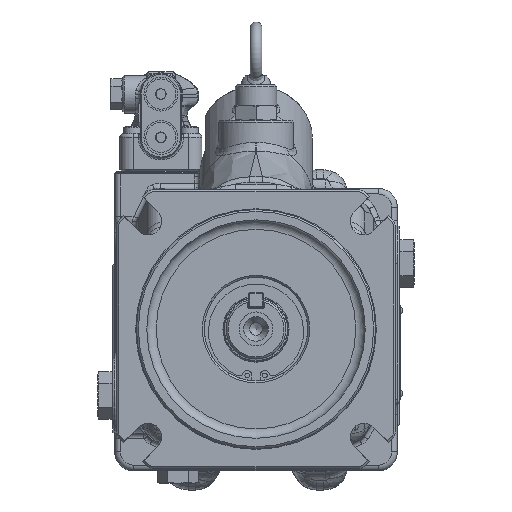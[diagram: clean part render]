
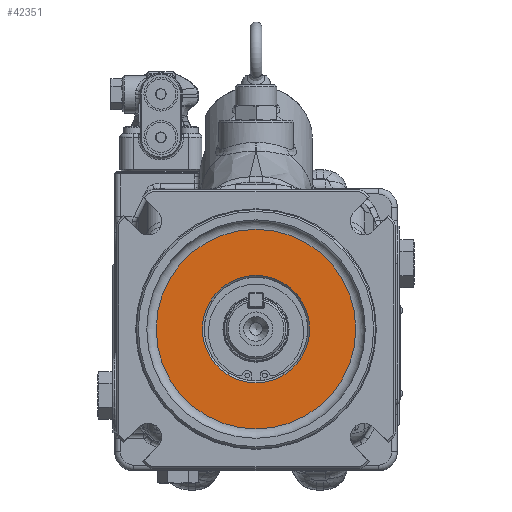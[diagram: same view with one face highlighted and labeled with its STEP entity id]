
A CAD part, top view. The second image highlights one B-rep face of the part: STEP entity #42351.
In plain terms, the highlighted planar face has unit normal (0, 0, 1).
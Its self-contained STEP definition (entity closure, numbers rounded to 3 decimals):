
#2473=FACE_BOUND('',#14248,.T.);
#9981=PLANE('',#45475);
#11535=FACE_OUTER_BOUND('',#14247,.T.);
#14247=EDGE_LOOP('',(#31337));
#14248=EDGE_LOOP('',(#31338));
#16951=CIRCLE('',#45473,53.);
#16953=CIRCLE('',#45476,28.5);
#19102=VERTEX_POINT('',#66984);
#19103=VERTEX_POINT('',#66989);
#23597=EDGE_CURVE('',#19102,#19102,#16951,.T.);
#23599=EDGE_CURVE('',#19103,#19103,#16953,.T.);
#31337=ORIENTED_EDGE('',*,*,#23597,.F.);
#31338=ORIENTED_EDGE('',*,*,#23599,.F.);
#42351=ADVANCED_FACE('',(#11535,#2473),#9981,.F.);
#45473=AXIS2_PLACEMENT_3D('',#66986,#51164,#51165);
#45475=AXIS2_PLACEMENT_3D('',#66988,#51168,#51169);
#45476=AXIS2_PLACEMENT_3D('',#66990,#51170,#51171);
#51164=DIRECTION('center_axis',(0.,0.,-1.));
#51165=DIRECTION('ref_axis',(-1.,0.,0.));
#51168=DIRECTION('center_axis',(0.,0.,-1.));
#51169=DIRECTION('ref_axis',(0.,1.,0.));
#51170=DIRECTION('center_axis',(0.,0.,1.));
#51171=DIRECTION('ref_axis',(0.,1.,0.));
#66984=CARTESIAN_POINT('',(8.489,18.714,101.606));
#66986=CARTESIAN_POINT('Origin',(8.489,-34.286,101.606));
#66988=CARTESIAN_POINT('Origin',(8.489,-34.286,101.606));
#66989=CARTESIAN_POINT('',(8.489,-62.786,101.606));
#66990=CARTESIAN_POINT('Origin',(8.489,-34.286,101.606));
